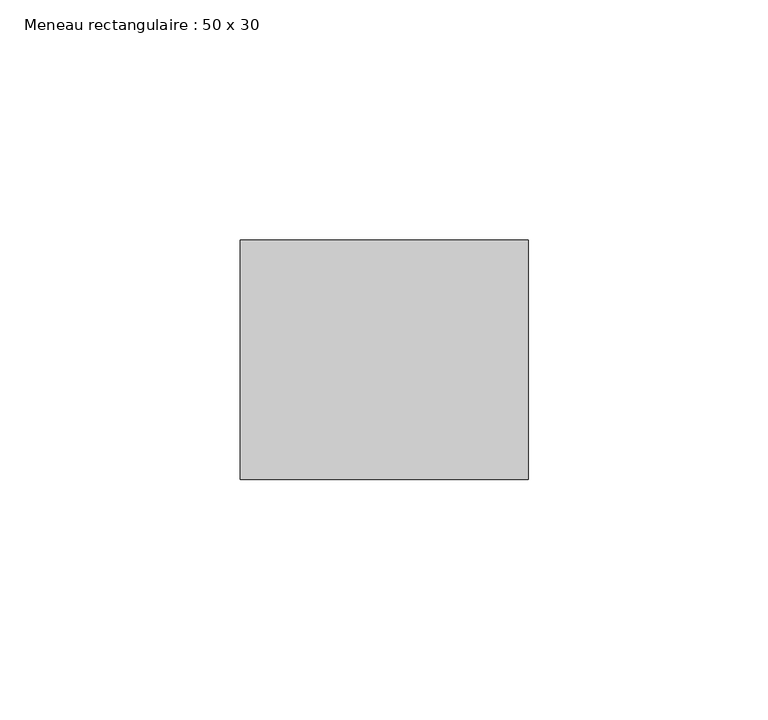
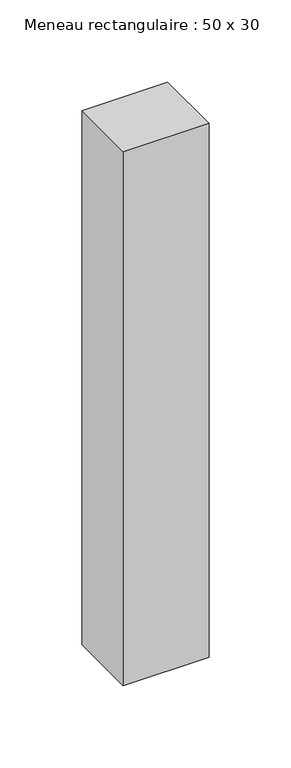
"""IFC4 building model written with IfcOpenShell, lengths in millimetres: member geometry, Meneau rectangulaire : 50 x 30."""

from ifc_helpers import new_model, si_unit, frame, origin, place, context, project, spatial, polyline, outline, extrude, source, transform, mapped, element, save


def meneau_rectangulaire_50_x_30_521eb16b(model_context):
    return source(origin(), model_context, "Body", "SweptSolid", [
        extrude(outline(polyline([(30.0, 0.0), (30.0, -50.0), (-30.0, -50.0), (-30.0, 0.0), (30.0, 0.0)])), frame((0.0, 0.0, -396.0), z_axis=(0.0, 0.0, 1.0), x_axis=(1.0, 0.0, 0.0)), (0.0, 0.0, 1.0), 396.0),
    ])


if __name__ == "__main__":
    model = new_model("IFC4")
    model_context = context("Model", 3, world=origin())
    ifc_project = project(units=[si_unit("LENGTHUNIT", "METRE", prefix="MILLI")], contexts=[model_context])
    site = spatial("IfcSite", under=ifc_project)
    building = spatial("IfcBuilding", under=site)
    placement = place(None, origin())
    meneau_rectangulaire_50_x_30_shape = meneau_rectangulaire_50_x_30_521eb16b(model_context)
    element("IfcMember", 1, ObjectType="Meneau rectangulaire : 50 x 30", at=placement, inside=building, context=model_context, shape_type="MappedRepresentation", body=[
        mapped(meneau_rectangulaire_50_x_30_shape, transform((0.0, 0.0, 0.0), x_axis=(1.0, 0.0, 0.0), y_axis=(0.0, 1.0, 0.0), z_axis=(0.0, 0.0, 1.0))),
    ])
    save(model, "model.ifc")
